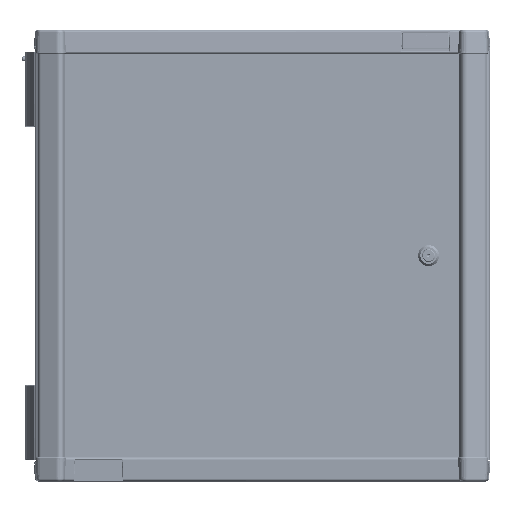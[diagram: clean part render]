
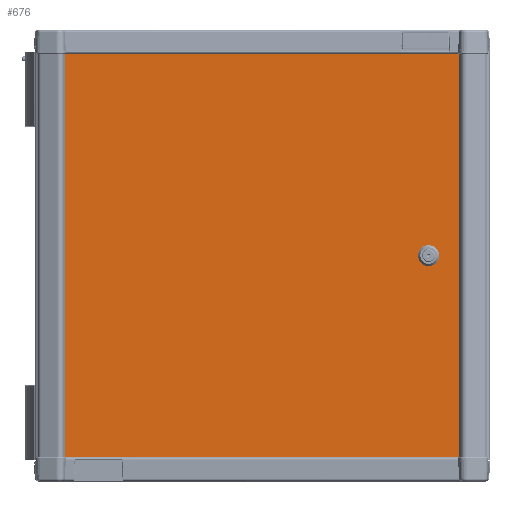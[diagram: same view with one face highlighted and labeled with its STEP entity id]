
A CAD part, top view. The second image highlights one B-rep face of the part: STEP entity #676.
In plain terms, the highlighted planar face has unit normal (0, 0, 1).
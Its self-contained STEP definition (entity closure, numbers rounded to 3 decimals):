
#676 = ADVANCED_FACE ( 'NONE', ( #101573, #145821 ), #191860, .T. ) ;
#1920 = EDGE_CURVE ( 'NONE', #41237, #20850, #56726, .T. ) ;
#14906 = VECTOR ( 'NONE', #87202, 1000. ) ;
#18149 = EDGE_LOOP ( 'NONE', ( #205657, #157031, #103345, #169098 ) ) ;
#20850 = VERTEX_POINT ( 'NONE', #35855 ) ;
#35855 = CARTESIAN_POINT ( 'NONE',  ( 232.836, 0., 0. ) ) ;
#36662 = VECTOR ( 'NONE', #206101, 1000. ) ;
#41237 = VERTEX_POINT ( 'NONE', #182904 ) ;
#52446 = CIRCLE ( 'NONE', #159352, 11.112 ) ;
#55309 = CARTESIAN_POINT ( 'NONE',  ( -286.588, 295.059, 0. ) ) ;
#56726 = CIRCLE ( 'NONE', #125900, 11.112 ) ;
#59286 = CARTESIAN_POINT ( 'NONE',  ( -286.588, 295.059, 0. ) ) ;
#72691 = DIRECTION ( 'NONE',  ( 0., 0., 1. ) ) ;
#73618 = VECTOR ( 'NONE', #112726, 1000. ) ;
#80249 = DIRECTION ( 'NONE',  ( 1., 0., 0. ) ) ;
#86379 = VERTEX_POINT ( 'NONE', #207332 ) ;
#86999 = CARTESIAN_POINT ( 'NONE',  ( 221.723, 0., 0. ) ) ;
#87202 = DIRECTION ( 'NONE',  ( 1., 0., 0. ) ) ;
#93803 = CARTESIAN_POINT ( 'NONE',  ( 286.588, 295.059, 0. ) ) ;
#96450 = DIRECTION ( 'NONE',  ( 0., 0., 1. ) ) ;
#97810 = CARTESIAN_POINT ( 'NONE',  ( -286.588, -295.059, 0. ) ) ;
#101573 = FACE_BOUND ( 'NONE', #183186, .T. ) ;
#103345 = ORIENTED_EDGE ( 'NONE', *, *, #118608, .T. ) ;
#112726 = DIRECTION ( 'NONE',  ( 0., 1., 0. ) ) ;
#113097 = ORIENTED_EDGE ( 'NONE', *, *, #197138, .F. ) ;
#118608 = EDGE_CURVE ( 'NONE', #182657, #129919, #223948, .T. ) ;
#125900 = AXIS2_PLACEMENT_3D ( 'NONE', #86999, #72691, #80249 ) ;
#126509 = EDGE_CURVE ( 'NONE', #129919, #86379, #155570, .T. ) ;
#129919 = VERTEX_POINT ( 'NONE', #146691 ) ;
#135095 = DIRECTION ( 'NONE',  ( -1., 0., 0. ) ) ;
#139533 = ORIENTED_EDGE ( 'NONE', *, *, #1920, .F. ) ;
#143658 = VECTOR ( 'NONE', #135095, 1000. ) ;
#145821 = FACE_OUTER_BOUND ( 'NONE', #18149, .T. ) ;
#146691 = CARTESIAN_POINT ( 'NONE',  ( 286.588, 295.059, 0. ) ) ;
#155570 = LINE ( 'NONE', #59286, #143658 ) ;
#157031 = ORIENTED_EDGE ( 'NONE', *, *, #240405, .T. ) ;
#159352 = AXIS2_PLACEMENT_3D ( 'NONE', #209298, #96450, #228192 ) ;
#163184 = CARTESIAN_POINT ( 'NONE',  ( -286.588, -295.059, 0. ) ) ;
#169098 = ORIENTED_EDGE ( 'NONE', *, *, #126509, .T. ) ;
#170556 = DIRECTION ( 'NONE',  ( 0., 0., 1. ) ) ;
#172104 = VERTEX_POINT ( 'NONE', #97810 ) ;
#173239 = DIRECTION ( 'NONE',  ( 1., 0., 0. ) ) ;
#177071 = EDGE_CURVE ( 'NONE', #86379, #172104, #186997, .T. ) ;
#182657 = VERTEX_POINT ( 'NONE', #229926 ) ;
#182904 = CARTESIAN_POINT ( 'NONE',  ( 210.611, 0., 0. ) ) ;
#183186 = EDGE_LOOP ( 'NONE', ( #113097, #139533 ) ) ;
#186997 = LINE ( 'NONE', #55309, #36662 ) ;
#187322 = AXIS2_PLACEMENT_3D ( 'NONE', #199904, #170556, #173239 ) ;
#191860 = PLANE ( 'NONE',  #187322 ) ;
#197138 = EDGE_CURVE ( 'NONE', #20850, #41237, #52446, .T. ) ;
#199904 = CARTESIAN_POINT ( 'NONE',  ( -286.588, -295.059, 0. ) ) ;
#205657 = ORIENTED_EDGE ( 'NONE', *, *, #177071, .T. ) ;
#206101 = DIRECTION ( 'NONE',  ( 0., -1., 0. ) ) ;
#207332 = CARTESIAN_POINT ( 'NONE',  ( -286.588, 295.059, 0. ) ) ;
#209298 = CARTESIAN_POINT ( 'NONE',  ( 221.723, 0., 0. ) ) ;
#223948 = LINE ( 'NONE', #93803, #73618 ) ;
#228192 = DIRECTION ( 'NONE',  ( 1., 0., 0. ) ) ;
#229926 = CARTESIAN_POINT ( 'NONE',  ( 286.588, -295.059, 0. ) ) ;
#233086 = LINE ( 'NONE', #163184, #14906 ) ;
#240405 = EDGE_CURVE ( 'NONE', #172104, #182657, #233086, .T. ) ;
